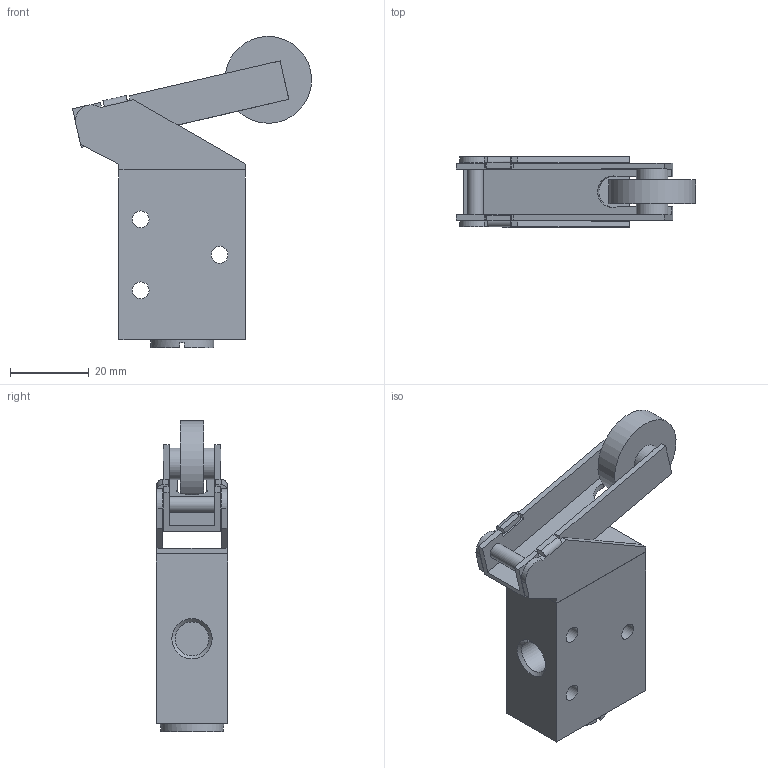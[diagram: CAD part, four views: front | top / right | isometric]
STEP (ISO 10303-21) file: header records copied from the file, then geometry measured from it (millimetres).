
FILE_DESCRIPTION((''),'2;1');
FILE_NAME('I:\Area Tecnica\Documenti\A-Roberto\_Inventor\Rev.Librerie\700\NEW\718_32_2_1-1.stp','2008-02-25T14:13:09',('rivolro1'),(''),'Autodesk Inventor 2008','Autodesk Inventor 2008','');
FILE_SCHEMA(('AUTOMOTIVE_DESIGN { 1 0 10303 214 1 1 1 1 }'));
Length unit declared in the file: millimetre
Products named in the file (3): 718_32_2_1-1; 718_32_2_1-1(A); 718_32_2_1-1(B)
Assembly tree (2 placements, depth 2):
  718_32_2_1-1
    718_32_2_1-1(A)
    718_32_2_1-1(B)
Bounding box: 60.6 x 18 x 78.83 mm (x, y, z)
Volume: 30010.2 mm3; surface area: 14738.7 mm2
Topology: 3 solids, 3 shells, 94 faces, 219 edges, 139 vertices
Faces by surface type: plane 64, bspline 17, cylinder 13
Full cylindrical faces by diameter (mm): 4 x1, 4.25 x3, 8 x2, 16 x1, 22 x1
Entity records: 2824 total; most frequent: CARTESIAN_POINT 628, DIRECTION 412, ORIENTED_EDGE 400, EDGE_CURVE 200, VECTOR 152, LINE 152, VERTEX_POINT 138, AXIS2_PLACEMENT_3D 130
